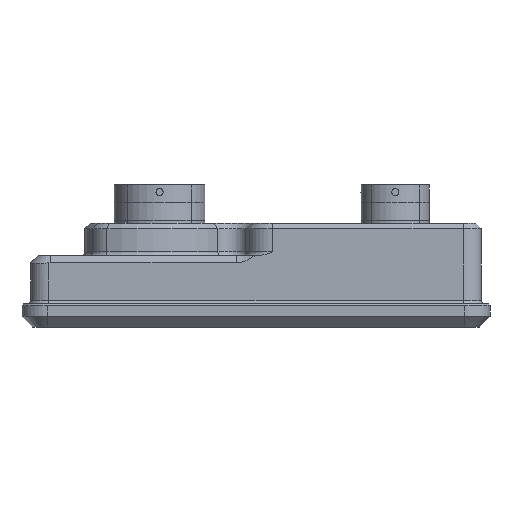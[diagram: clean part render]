
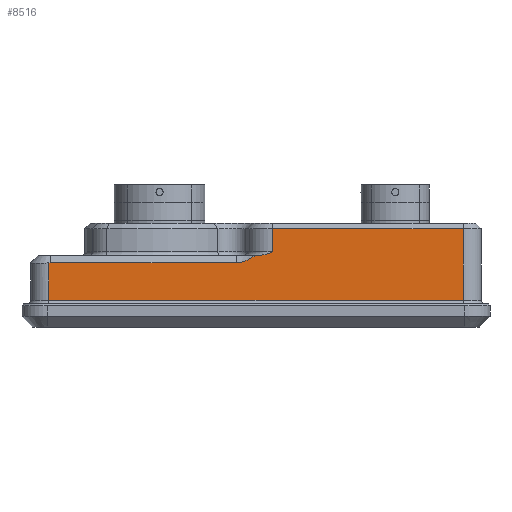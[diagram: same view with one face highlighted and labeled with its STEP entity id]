
A CAD part, front view. The second image highlights one B-rep face of the part: STEP entity #8516.
In plain terms, the highlighted planar face has unit normal (0, 1, 0).
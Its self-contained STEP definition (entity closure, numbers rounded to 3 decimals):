
#8434=AXIS2_PLACEMENT_3D('Plane Axis2P3D',#8431,#8432,#8433) ;
#8406=CARTESIAN_POINT('Vertex',(14.,9.,1.)) ;
#8416=CARTESIAN_POINT('Vertex',(14.,9.,11.477)) ;
#8419=CARTESIAN_POINT('Line Origine',(14.,9.,11.25)) ;
#8431=CARTESIAN_POINT('Axis2P3D Location',(133.5,9.,0.)) ;
#8437=CARTESIAN_POINT('Control Point',(14.5,9.,11.5)) ;
#8438=CARTESIAN_POINT('Control Point',(14.333,9.,11.5)) ;
#8439=CARTESIAN_POINT('Control Point',(14.166,9.,11.492)) ;
#8440=CARTESIAN_POINT('Control Point',(14.,9.,11.477)) ;
#8441=CARTESIAN_POINT('Vertex',(14.5,9.,11.5)) ;
#8444=CARTESIAN_POINT('Line Origine',(72.,9.,11.5)) ;
#8448=CARTESIAN_POINT('Vertex',(66.5,9.,11.5)) ;
#8452=CARTESIAN_POINT('Control Point',(66.5,9.,11.5)) ;
#8453=CARTESIAN_POINT('Control Point',(67.585,9.,11.5)) ;
#8454=CARTESIAN_POINT('Control Point',(68.67,9.,11.745)) ;
#8455=CARTESIAN_POINT('Control Point',(69.746,9.,12.237)) ;
#8456=CARTESIAN_POINT('Control Point',(70.785,9.,12.834)) ;
#8457=CARTESIAN_POINT('Control Point',(71.791,9.,13.5)) ;
#8458=CARTESIAN_POINT('Vertex',(71.792,9.,13.5)) ;
#8461=CARTESIAN_POINT('Line Origine',(72.,9.,13.5)) ;
#8465=CARTESIAN_POINT('Vertex',(72.701,9.,13.5)) ;
#8469=CARTESIAN_POINT('Control Point',(72.701,9.,13.5)) ;
#8470=CARTESIAN_POINT('Control Point',(73.543,9.,13.5)) ;
#8471=CARTESIAN_POINT('Control Point',(74.361,9.,13.702)) ;
#8472=CARTESIAN_POINT('Control Point',(75.116,9.,13.942)) ;
#8473=CARTESIAN_POINT('Control Point',(75.859,9.,14.222)) ;
#8474=CARTESIAN_POINT('Control Point',(76.6,9.,14.5)) ;
#8475=CARTESIAN_POINT('Vertex',(76.6,9.,14.5)) ;
#8478=CARTESIAN_POINT('Line Origine',(76.6,9.,11.25)) ;
#8482=CARTESIAN_POINT('Vertex',(76.6,9.,21.)) ;
#8485=CARTESIAN_POINT('Line Origine',(72.,9.,21.)) ;
#8489=CARTESIAN_POINT('Vertex',(130.,9.,21.)) ;
#8492=CARTESIAN_POINT('Line Origine',(130.,9.,11.25)) ;
#8496=CARTESIAN_POINT('Vertex',(130.,9.,1.)) ;
#8499=CARTESIAN_POINT('Line Origine',(72.,9.,1.)) ;
#8420=DIRECTION('Vector Direction',(0.,0.,1.)) ;
#8432=DIRECTION('Axis2P3D Direction',(0.,1.,-0.)) ;
#8433=DIRECTION('Axis2P3D XDirection',(-1.,0.,0.)) ;
#8445=DIRECTION('Vector Direction',(-1.,0.,0.)) ;
#8462=DIRECTION('Vector Direction',(-1.,0.,0.)) ;
#8479=DIRECTION('Vector Direction',(0.,0.,1.)) ;
#8486=DIRECTION('Vector Direction',(-1.,0.,0.)) ;
#8493=DIRECTION('Vector Direction',(0.,0.,1.)) ;
#8500=DIRECTION('Vector Direction',(-1.,0.,0.)) ;
#8421=VECTOR('Line Direction',#8420,1.) ;
#8446=VECTOR('Line Direction',#8445,1.) ;
#8463=VECTOR('Line Direction',#8462,1.) ;
#8480=VECTOR('Line Direction',#8479,1.) ;
#8487=VECTOR('Line Direction',#8486,1.) ;
#8494=VECTOR('Line Direction',#8493,1.) ;
#8501=VECTOR('Line Direction',#8500,1.) ;
#8505=ORIENTED_EDGE('',*,*,#8423,.T.) ;
#8506=ORIENTED_EDGE('',*,*,#8443,.F.) ;
#8507=ORIENTED_EDGE('',*,*,#8450,.T.) ;
#8508=ORIENTED_EDGE('',*,*,#8460,.T.) ;
#8509=ORIENTED_EDGE('',*,*,#8467,.T.) ;
#8510=ORIENTED_EDGE('',*,*,#8477,.F.) ;
#8511=ORIENTED_EDGE('',*,*,#8484,.F.) ;
#8512=ORIENTED_EDGE('',*,*,#8491,.F.) ;
#8513=ORIENTED_EDGE('',*,*,#8498,.F.) ;
#8514=ORIENTED_EDGE('',*,*,#8503,.T.) ;
#8516=ADVANCED_FACE('Extract.134',(#8515),#8435,.T.) ;
#8436=B_SPLINE_CURVE_WITH_KNOTS('',3,(#8437,#8438,#8439,#8440),.UNSPECIFIED.,.F.,.U.,(4,4),(0.,0.647),.UNSPECIFIED.) ;
#8451=B_SPLINE_CURVE_WITH_KNOTS('',5,(#8452,#8453,#8454,#8455,#8456,#8457),.UNSPECIFIED.,.F.,.U.,(6,6),(0.,8.332),.UNSPECIFIED.) ;
#8468=B_SPLINE_CURVE_WITH_KNOTS('',5,(#8469,#8470,#8471,#8472,#8473,#8474),.UNSPECIFIED.,.F.,.U.,(6,6),(0.,5.954),.UNSPECIFIED.) ;
#8423=EDGE_CURVE('',#8407,#8417,#8422,.T.) ;
#8443=EDGE_CURVE('',#8442,#8417,#8436,.T.) ;
#8450=EDGE_CURVE('',#8442,#8449,#8447,.F.) ;
#8460=EDGE_CURVE('',#8449,#8459,#8451,.T.) ;
#8467=EDGE_CURVE('',#8459,#8466,#8464,.F.) ;
#8477=EDGE_CURVE('',#8476,#8466,#8468,.F.) ;
#8484=EDGE_CURVE('',#8483,#8476,#8481,.F.) ;
#8491=EDGE_CURVE('',#8490,#8483,#8488,.T.) ;
#8498=EDGE_CURVE('',#8497,#8490,#8495,.T.) ;
#8503=EDGE_CURVE('',#8497,#8407,#8502,.T.) ;
#8504=EDGE_LOOP('',(#8505,#8506,#8507,#8508,#8509,#8510,#8511,#8512,#8513,#8514)) ;
#8515=FACE_OUTER_BOUND('',#8504,.T.) ;
#8422=LINE('Line',#8419,#8421) ;
#8447=LINE('Line',#8444,#8446) ;
#8464=LINE('Line',#8461,#8463) ;
#8481=LINE('Line',#8478,#8480) ;
#8488=LINE('Line',#8485,#8487) ;
#8495=LINE('Line',#8492,#8494) ;
#8502=LINE('Line',#8499,#8501) ;
#8435=PLANE('Plane',#8434) ;
#8407=VERTEX_POINT('',#8406) ;
#8417=VERTEX_POINT('',#8416) ;
#8442=VERTEX_POINT('',#8441) ;
#8449=VERTEX_POINT('',#8448) ;
#8459=VERTEX_POINT('',#8458) ;
#8466=VERTEX_POINT('',#8465) ;
#8476=VERTEX_POINT('',#8475) ;
#8483=VERTEX_POINT('',#8482) ;
#8490=VERTEX_POINT('',#8489) ;
#8497=VERTEX_POINT('',#8496) ;
